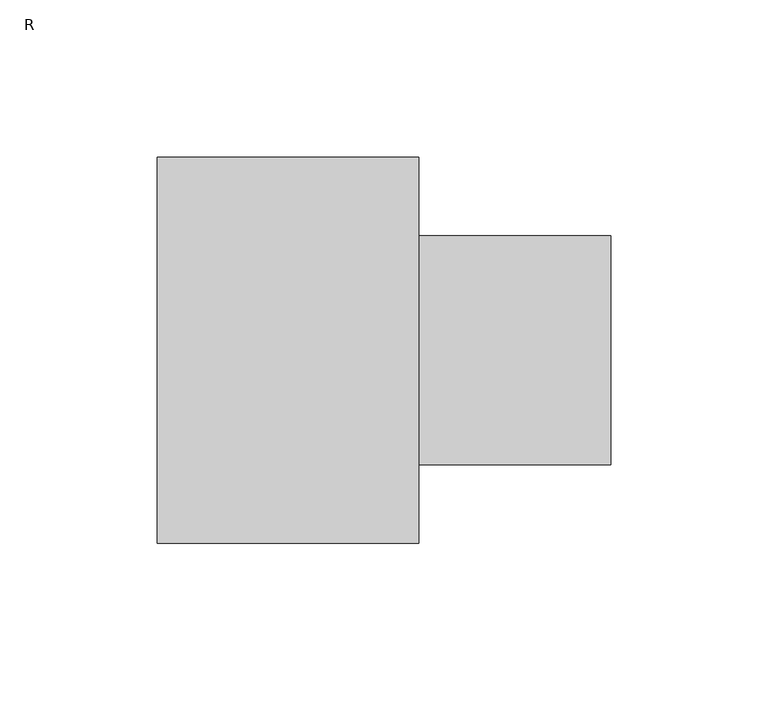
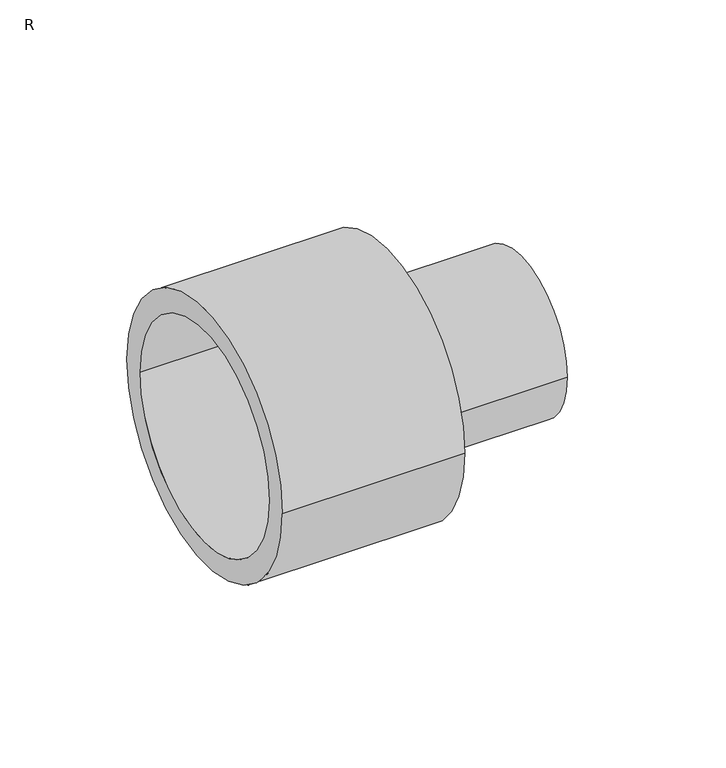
"""IFC4 building model written with IfcOpenShell, lengths in millimetres: pipe fitting geometry, FUSAPEX reducer : R."""

from ifc_helpers import new_model, si_unit, frame, origin, place, context, project, spatial, polyline, circle_curve, source, transform, mapped, element, save
from ifc_brep_helpers import plane_surface, cylinder_surface, revolved_surface, advanced_brep


def r_9be9cc2b(model_context):
    return source(origin(), model_context, "Body", "AdvancedBrep", [
        advanced_brep(
        [(-83.0, 50.85, 0.0), (-83.0, -50.85, 0.0), (-14.2, -50.85, 0.0), (-14.2, 50.85, 0.0), (0.0, 61.3, 0.0), (0.0, -61.3, 0.0), (-83.0, -61.3, 0.0), (-83.0, 61.3, 0.0), (61.0, 36.4, 0.0), (61.0, -36.4, 0.0), (0.0, -36.4, 0.0), (0.0, 36.4, 0.0), (-14.2, 30.5, 0.0), (-14.2, -30.5, 0.0), (61.0, -30.5, 0.0), (61.0, 30.5, 0.0)],
        [
            (0, 1, circle_curve(frame((-83.0, 0.0, 0.0), z_axis=(-1.0, 0.0, 0.0), x_axis=(0.0, -1.0, 0.0)), 50.85)),
            (1, 2),
            (2, 3, circle_curve(frame((-14.2, 0.0, 0.0), z_axis=(1.0, 0.0, 0.0), x_axis=(0.0, -1.0, 0.0)), 50.85)),
            (3, 0),
            (4, 5, circle_curve(frame((0.0, 0.0, 0.0), z_axis=(-1.0, 0.0, 0.0), x_axis=(0.0, -1.0, 0.0)), 61.3)),
            (5, 6),
            (6, 7, circle_curve(frame((-83.0, 0.0, 0.0), z_axis=(1.0, 0.0, 0.0), x_axis=(0.0, -1.0, 0.0)), 61.3)),
            (7, 4),
            (8, 9, circle_curve(frame((61.0, 0.0, 0.0), z_axis=(-1.0, 0.0, 0.0), x_axis=(0.0, -1.0, 0.0)), 36.4)),
            (9, 10),
            (10, 11, circle_curve(frame((0.0, 0.0, 0.0), z_axis=(1.0, 0.0, 0.0), x_axis=(0.0, -1.0, 0.0)), 36.4)),
            (11, 8),
            (12, 13, circle_curve(frame((-14.2, 0.0, 0.0), z_axis=(-1.0, 0.0, 0.0), x_axis=(0.0, -1.0, 0.0)), 30.5)),
            (13, 14),
            (14, 15, circle_curve(frame((61.0, 0.0, 0.0), z_axis=(1.0, 0.0, 0.0), x_axis=(0.0, -1.0, 0.0)), 30.5)),
            (15, 12),
            (1, 0, circle_curve(frame((-83.0, 0.0, 0.0), z_axis=(-1.0, 0.0, 0.0), x_axis=(0.0, 1.0, 0.0)), 50.85)),
            (3, 2, circle_curve(frame((-14.2, 0.0, 0.0), z_axis=(1.0, 0.0, 0.0), x_axis=(0.0, 1.0, 0.0)), 50.85)),
            (6, 7, circle_curve(frame((-83.0, 0.0, 0.0), z_axis=(-1.0, 0.0, 0.0), x_axis=(0.0, 1.0, 0.0)), 61.3)),
            (5, 4, circle_curve(frame((0.0, 0.0, 0.0), z_axis=(-1.0, 0.0, 0.0), x_axis=(0.0, 1.0, 0.0)), 61.3)),
            (10, 11, circle_curve(frame((0.0, 0.0, 0.0), z_axis=(-1.0, 0.0, 0.0), x_axis=(0.0, 1.0, 0.0)), 36.4)),
            (9, 8, circle_curve(frame((61.0, 0.0, 0.0), z_axis=(-1.0, 0.0, 0.0), x_axis=(0.0, 1.0, 0.0)), 36.4)),
            (14, 15, circle_curve(frame((61.0, 0.0, 0.0), z_axis=(-1.0, 0.0, 0.0), x_axis=(0.0, 1.0, 0.0)), 30.5)),
            (13, 12, circle_curve(frame((-14.2, 0.0, 0.0), z_axis=(-1.0, 0.0, 0.0), x_axis=(0.0, 1.0, 0.0)), 30.5)),
        ],
        [
            revolved_surface(polyline([(-14.2, -50.85, 0.0), (-83.0, -50.85, 0.0)]), (0.0, 0.0, 0.0), (1.0, 0.0, 0.0)),
            cylinder_surface(frame((0.0, 0.0, 0.0), z_axis=(1.0, 0.0, 0.0), x_axis=(0.0, -1.0, 0.0)), 61.3),
            cylinder_surface(frame((0.0, 0.0, 0.0), z_axis=(1.0, 0.0, 0.0), x_axis=(0.0, -1.0, 0.0)), 36.4),
            revolved_surface(polyline([(61.0, -30.5, 0.0), (-14.2, -30.5, 0.0)]), (0.0, 0.0, 0.0), (1.0, 0.0, 0.0)),
            revolved_surface(polyline([(-14.2, 50.85, 0.0), (-83.0, 50.85, 0.0)]), (0.0, 0.0, 0.0), (1.0, 0.0, 0.0)),
            plane_surface(frame((-83.0, 0.0, 0.0), z_axis=(-1.0, 0.0, 0.0), x_axis=(0.0, 1.0, 0.0))),
            cylinder_surface(frame((0.0, 0.0, 0.0), z_axis=(1.0, 0.0, 0.0), x_axis=(0.0, 1.0, 0.0)), 61.3),
            plane_surface(frame((0.0, 0.0, 0.0), z_axis=(1.0, 0.0, 0.0), x_axis=(0.0, 1.0, 0.0))),
            cylinder_surface(frame((0.0, 0.0, 0.0), z_axis=(1.0, 0.0, 0.0), x_axis=(0.0, 1.0, 0.0)), 36.4),
            plane_surface(frame((61.0, 0.0, 0.0), z_axis=(1.0, 0.0, 0.0), x_axis=(0.0, 1.0, 0.0))),
            revolved_surface(polyline([(61.0, 30.5, 0.0), (-14.2, 30.5, 0.0)]), (0.0, 0.0, 0.0), (1.0, 0.0, 0.0)),
            plane_surface(frame((-14.2, 0.0, 0.0), z_axis=(-1.0, 0.0, 0.0), x_axis=(0.0, 1.0, 0.0))),
        ],
        [
            (0, [[1, 2, 3, 4]]),
            (1, [[5, 6, 7, 8]]),
            (2, [[9, 10, 11, 12]]),
            (3, [[13, 14, 15, 16]]),
            (4, [[17, -4, 18, -2]]),
            (5, [[19, -7], [-17, -1]]),
            (6, [[20, -8, -19, -6]]),
            (7, [[-20, -5], [21, -11]]),
            (8, [[22, -12, -21, -10]]),
            (9, [[-22, -9], [23, -15]]),
            (10, [[24, -16, -23, -14]]),
            (11, [[-18, -3], [-24, -13]]),
        ],
    ),
    ])


if __name__ == "__main__":
    model = new_model("IFC4")
    model_context = context("Model", 3, world=origin())
    ifc_project = project(units=[si_unit("LENGTHUNIT", "METRE", prefix="MILLI")], contexts=[model_context])
    site = spatial("IfcSite", under=ifc_project)
    building = spatial("IfcBuilding", under=site)
    placement = place(None, origin())
    r_shape = r_9be9cc2b(model_context)
    element("IfcPipeFitting", 1, ObjectType="FUSAPEX reducer : R", at=placement, inside=building, context=model_context, shape_type="MappedRepresentation", body=[
        mapped(r_shape, transform((0.0, 0.0, 0.0), x_axis=(1.0, 0.0, 0.0), y_axis=(0.0, 1.0, 0.0), z_axis=(0.0, 0.0, 1.0))),
    ])
    save(model, "model.ifc")
